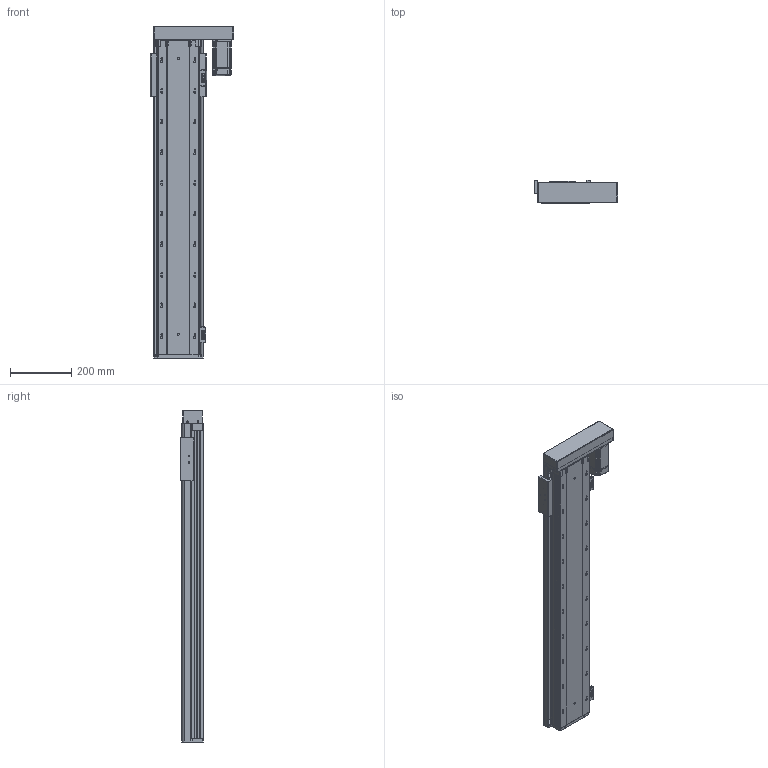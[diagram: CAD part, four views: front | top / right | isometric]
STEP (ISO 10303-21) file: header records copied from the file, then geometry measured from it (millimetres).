
FILE_DESCRIPTION (( 'STEP AP203' ), '1' );
FILE_NAME ('RY140FB-L2010-300-RK.SLDASM_800.step', '2021-02-23T02:41:12', ( '盈信电脑' ), ( '东莞市道滘镇水果街19号' ), 'SwSTEP 2.0', 'SolidWorks 2012', '' );
FILE_SCHEMA (( 'CONFIG_CONTROL_DESIGN' ));
Products named in the file (17): RY140FB-L2010-300-RK.SLDASM_800; RY140FB-覜茼え; RY140FB-酘衵殏萇儂欶; RY140FB-左右折电机安装板; RY140-674嫖萇耀輸; RY140直线电机感应器674光电安装座; 覜茼ん674; RY140FB-20佪裝臏賑輸; RY140FB-300蛌殏奻裔啣-RK_800; 15; 侂狟400W侜督萇儂; RY140FB-转折电机端支撑座(7002); 滅袉蝶18-24; RY140FB-綴裔啣; 滅袉蝶18-10; RY140FB-300蛌殏倰第菁釱-RK_800
Assembly tree (20 placements, depth 3):
  RY140FB-L2010-300-RK.SLDASM_800
    RY140FB-300蛌殏倰第菁釱-RK_800
    RY140FB-綴裔啣
    滅袉蝶18-24  x2
    滅袉蝶18-10
    RY140FB-转折电机端支撑座(7002)
    侂狟400W侜督萇儂
      15
    RY140FB-20佪裝臏賑輸
    RY140FB-300蛌殏奻裔啣-RK_800
    RY140-674嫖萇耀輸
      覜茼ん674
      RY140直线电机感应器674光电安装座
    RY140-674嫖萇耀輸
      覜茼ん674  x2
      RY140直线电机感应器674光电安装座
    RY140FB-覜茼え
    RY140FB-左右折电机安装板
    RY140FB-酘衵殏萇儂欶
Bounding box: 271.3 x 75 x 1083.2 mm (x, y, z)
Volume: 4283240.4 mm3; surface area: 1427580.4 mm2
Topology: 17 solids, 17 shells, 1846 faces, 5079 edges, 3227 vertices
Faces by surface type: cylinder 917, plane 723, cone 178, bspline 28
Entity records: 56013 total; most frequent: CARTESIAN_POINT 11399, DIRECTION 9056, ORIENTED_EDGE 8850, EDGE_CURVE 4425, AXIS2_PLACEMENT_3D 3284, VERTEX_POINT 2895, VECTOR 2488, LINE 2488
